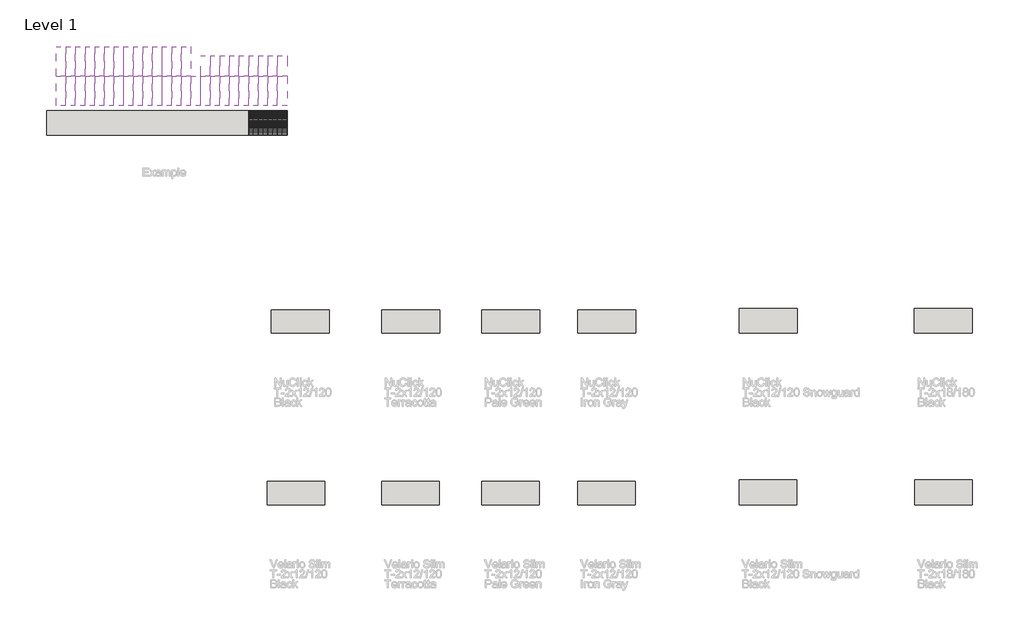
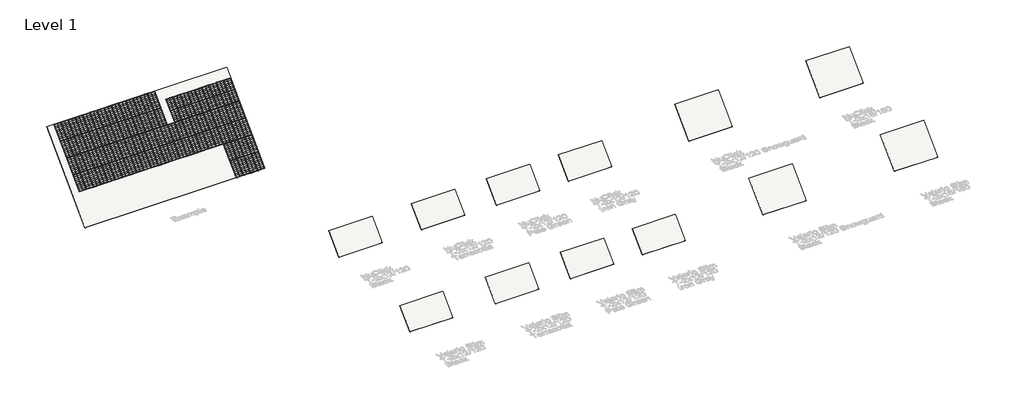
# One storey, part 1 of 13: 51 proxies, 13 roofs.
"""IFC4 building model written with IfcOpenShell, lengths in millimetres."""

from ifc_helpers import new_model, si_unit, frame, origin, place, context, project, spatial, polyline, outline, extrude, transform, mapped, element, save
from components import specialty_equipment_90d8c1e8, specialty_equipment_4e519f52

model = new_model("IFC4")

# Units and contexts
model_context = context("Model", 3, world=origin())
ifc_project = project(units=[si_unit("LENGTHUNIT", "METRE", prefix="MILLI")], contexts=[model_context])

# Site, building, storey
site = spatial("IfcSite", under=ifc_project)
building = spatial("IfcBuilding", under=site)
storey = spatial("IfcBuildingStorey", under=building, Name="Level 1", Elevation=4000.0)

# Proxies
placement = place(None, origin())
specialty_equipment_shape = specialty_equipment_90d8c1e8(model_context)
element("IfcBuildingElementProxy", 1, Name="Construction-Roof_Roofit-Solar_velario-slim-t-2x18-180 : Velario Slim T-2x18/180", ObjectType="Construction-Roof_Roofit-Solar_velario-slim-t-2x18-180 : Velario Slim T-2x18/180", at=placement, inside=storey, context=model_context, shape_type="MappedRepresentation", body=[
    mapped(specialty_equipment_shape, transform((22711.258978, 5411.2263464, 6175.4140123), x_axis=(-1.0, 0.0, 0.0), y_axis=(0.0, -0.7071067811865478, -0.7071067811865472), z_axis=(0.0, -0.7071067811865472, 0.7071067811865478))),
])
element("IfcBuildingElementProxy", 2, Name="Construction-Roof_Roofit-Solar_velario-slim-t-2x18-180 : Velario Slim T-2x18/180", ObjectType="Construction-Roof_Roofit-Solar_velario-slim-t-2x18-180 : Velario Slim T-2x18/180", at=placement, inside=storey, context=model_context, shape_type="MappedRepresentation", body=[
    mapped(specialty_equipment_shape, transform((23182.258978, 5411.2263464, 6175.4140123), x_axis=(-1.0, 0.0, 0.0), y_axis=(0.0, -0.7071067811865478, -0.7071067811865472), z_axis=(0.0, -0.7071067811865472, 0.7071067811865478))),
])
element("IfcBuildingElementProxy", 3, Name="Construction-Roof_Roofit-Solar_velario-slim-t-2x18-180 : Velario Slim T-2x18/180", ObjectType="Construction-Roof_Roofit-Solar_velario-slim-t-2x18-180 : Velario Slim T-2x18/180", at=placement, inside=storey, context=model_context, shape_type="MappedRepresentation", body=[
    mapped(specialty_equipment_shape, transform((23653.258978, 5411.2263464, 6175.4140123), x_axis=(-1.0, 0.0, 0.0), y_axis=(0.0, -0.7071067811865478, -0.7071067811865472), z_axis=(0.0, -0.7071067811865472, 0.7071067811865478))),
])
element("IfcBuildingElementProxy", 4, Name="Construction-Roof_Roofit-Solar_velario-slim-t-2x18-180 : Velario Slim T-2x18/180", ObjectType="Construction-Roof_Roofit-Solar_velario-slim-t-2x18-180 : Velario Slim T-2x18/180", at=placement, inside=storey, context=model_context, shape_type="MappedRepresentation", body=[
    mapped(specialty_equipment_shape, transform((24124.258978, 5411.2263464, 6175.4140123), x_axis=(-1.0, 0.0, 0.0), y_axis=(0.0, -0.7071067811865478, -0.7071067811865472), z_axis=(0.0, -0.7071067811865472, 0.7071067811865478))),
])
element("IfcBuildingElementProxy", 5, Name="Construction-Roof_Roofit-Solar_velario-slim-t-2x18-180 : Velario Slim T-2x18/180", ObjectType="Construction-Roof_Roofit-Solar_velario-slim-t-2x18-180 : Velario Slim T-2x18/180", at=placement, inside=storey, context=model_context, shape_type="MappedRepresentation", body=[
    mapped(specialty_equipment_shape, transform((24595.258978, 5411.2263464, 6175.4140123), x_axis=(-1.0, 0.0, 0.0), y_axis=(0.0, -0.7071067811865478, -0.7071067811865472), z_axis=(0.0, -0.7071067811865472, 0.7071067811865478))),
])
element("IfcBuildingElementProxy", 6, Name="Construction-Roof_Roofit-Solar_velario-slim-t-2x18-180 : Velario Slim T-2x18/180", ObjectType="Construction-Roof_Roofit-Solar_velario-slim-t-2x18-180 : Velario Slim T-2x18/180", at=placement, inside=storey, context=model_context, shape_type="MappedRepresentation", body=[
    mapped(specialty_equipment_shape, transform((25066.258978, 5411.2263464, 6175.4140123), x_axis=(-1.0, 0.0, 0.0), y_axis=(0.0, -0.7071067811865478, -0.7071067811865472), z_axis=(0.0, -0.7071067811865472, 0.7071067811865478))),
])
element("IfcBuildingElementProxy", 7, Name="Construction-Roof_Roofit-Solar_velario-slim-t-2x18-180 : Velario Slim T-2x18/180", ObjectType="Construction-Roof_Roofit-Solar_velario-slim-t-2x18-180 : Velario Slim T-2x18/180", at=placement, inside=storey, context=model_context, shape_type="MappedRepresentation", body=[
    mapped(specialty_equipment_shape, transform((25537.258978, 5411.2263464, 6175.4140123), x_axis=(-1.0, 0.0, 0.0), y_axis=(0.0, -0.7071067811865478, -0.7071067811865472), z_axis=(0.0, -0.7071067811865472, 0.7071067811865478))),
])
element("IfcBuildingElementProxy", 8, Name="Construction-Roof_Roofit-Solar_velario-slim-t-2x18-180 : Velario Slim T-2x18/180", ObjectType="Construction-Roof_Roofit-Solar_velario-slim-t-2x18-180 : Velario Slim T-2x18/180", at=placement, inside=storey, context=model_context, shape_type="MappedRepresentation", body=[
    mapped(specialty_equipment_shape, transform((26008.258978, 5411.2263464, 6175.4140123), x_axis=(-1.0, 0.0, 0.0), y_axis=(0.0, -0.7071067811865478, -0.7071067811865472), z_axis=(0.0, -0.7071067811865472, 0.7071067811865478))),
])
element("IfcBuildingElementProxy", 9, Name="Construction-Roof_Roofit-Solar_velario-slim-t-2x18-180 : Velario Slim T-2x18/180", ObjectType="Construction-Roof_Roofit-Solar_velario-slim-t-2x18-180 : Velario Slim T-2x18/180", at=placement, inside=storey, context=model_context, shape_type="MappedRepresentation", body=[
    mapped(specialty_equipment_shape, transform((26479.258978, 5411.2263464, 6175.4140123), x_axis=(-1.0, 0.0, 0.0), y_axis=(0.0, -0.7071067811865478, -0.7071067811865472), z_axis=(0.0, -0.7071067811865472, 0.7071067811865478))),
])
element("IfcBuildingElementProxy", 10, Name="Construction-Roof_Roofit-Solar_velario-slim-t-2x18-180 : Velario Slim T-2x18/180", ObjectType="Construction-Roof_Roofit-Solar_velario-slim-t-2x18-180 : Velario Slim T-2x18/180", at=placement, inside=storey, context=model_context, shape_type="MappedRepresentation", body=[
    mapped(specialty_equipment_shape, transform((26950.258978, 5411.2263464, 6175.4140123), x_axis=(-1.0, 0.0, 0.0), y_axis=(0.0, -0.7071067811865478, -0.7071067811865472), z_axis=(0.0, -0.7071067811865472, 0.7071067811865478))),
])
element("IfcBuildingElementProxy", 11, Name="Construction-Roof_Roofit-Solar_velario-slim-t-2x18-180 : Velario Slim T-2x18/180", ObjectType="Construction-Roof_Roofit-Solar_velario-slim-t-2x18-180 : Velario Slim T-2x18/180", at=placement, inside=storey, context=model_context, shape_type="MappedRepresentation", body=[
    mapped(specialty_equipment_shape, transform((27421.258978, 5411.2263464, 6175.4140123), x_axis=(-1.0, 0.0, 0.0), y_axis=(0.0, -0.7071067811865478, -0.7071067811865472), z_axis=(0.0, -0.7071067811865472, 0.7071067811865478))),
])
element("IfcBuildingElementProxy", 12, Name="Construction-Roof_Roofit-Solar_velario-slim-t-2x18-180 : Velario Slim T-2x18/180", ObjectType="Construction-Roof_Roofit-Solar_velario-slim-t-2x18-180 : Velario Slim T-2x18/180", at=placement, inside=storey, context=model_context, shape_type="MappedRepresentation", body=[
    mapped(specialty_equipment_shape, transform((27892.258978, 5411.2263464, 6175.4140123), x_axis=(-1.0, 0.0, 0.0), y_axis=(0.0, -0.7071067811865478, -0.7071067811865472), z_axis=(0.0, -0.7071067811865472, 0.7071067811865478))),
])
element("IfcBuildingElementProxy", 13, Name="Construction-Roof_Roofit-Solar_velario-slim-t-2x18-180 : Velario Slim T-2x18/180", ObjectType="Construction-Roof_Roofit-Solar_velario-slim-t-2x18-180 : Velario Slim T-2x18/180", at=placement, inside=storey, context=model_context, shape_type="MappedRepresentation", body=[
    mapped(specialty_equipment_shape, transform((28363.258978, 5411.2263464, 6175.4140123), x_axis=(-1.0, 0.0, 0.0), y_axis=(0.0, -0.7071067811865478, -0.7071067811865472), z_axis=(0.0, -0.7071067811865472, 0.7071067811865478))),
])
element("IfcBuildingElementProxy", 14, Name="Construction-Roof_Roofit-Solar_velario-slim-t-2x18-180 : Velario Slim T-2x18/180", ObjectType="Construction-Roof_Roofit-Solar_velario-slim-t-2x18-180 : Velario Slim T-2x18/180", at=placement, inside=storey, context=model_context, shape_type="MappedRepresentation", body=[
    mapped(specialty_equipment_shape, transform((28834.258978, 5411.2263464, 6175.4140123), x_axis=(-1.0, 0.0, 0.0), y_axis=(0.0, -0.7071067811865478, -0.7071067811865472), z_axis=(0.0, -0.7071067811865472, 0.7071067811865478))),
])
element("IfcBuildingElementProxy", 15, Name="Construction-Roof_Roofit-Solar_velario-slim-t-2x18-180 : Velario Slim T-2x18/180", ObjectType="Construction-Roof_Roofit-Solar_velario-slim-t-2x18-180 : Velario Slim T-2x18/180", at=placement, inside=storey, context=model_context, shape_type="MappedRepresentation", body=[
    mapped(specialty_equipment_shape, transform((22711.258978, 6861.5023546, 7625.6900205), x_axis=(-1.0, 0.0, 0.0), y_axis=(0.0, -0.7071067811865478, -0.7071067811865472), z_axis=(0.0, -0.7071067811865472, 0.7071067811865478))),
])
element("IfcBuildingElementProxy", 16, Name="Construction-Roof_Roofit-Solar_velario-slim-t-2x18-180 : Velario Slim T-2x18/180", ObjectType="Construction-Roof_Roofit-Solar_velario-slim-t-2x18-180 : Velario Slim T-2x18/180", at=placement, inside=storey, context=model_context, shape_type="MappedRepresentation", body=[
    mapped(specialty_equipment_shape, transform((23182.258978, 6861.5023546, 7625.6900205), x_axis=(-1.0, 0.0, 0.0), y_axis=(0.0, -0.7071067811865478, -0.7071067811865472), z_axis=(0.0, -0.7071067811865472, 0.7071067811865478))),
])
element("IfcBuildingElementProxy", 17, Name="Construction-Roof_Roofit-Solar_velario-slim-t-2x18-180 : Velario Slim T-2x18/180", ObjectType="Construction-Roof_Roofit-Solar_velario-slim-t-2x18-180 : Velario Slim T-2x18/180", at=placement, inside=storey, context=model_context, shape_type="MappedRepresentation", body=[
    mapped(specialty_equipment_shape, transform((23653.258978, 6861.5023546, 7625.6900205), x_axis=(-1.0, 0.0, 0.0), y_axis=(0.0, -0.7071067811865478, -0.7071067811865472), z_axis=(0.0, -0.7071067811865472, 0.7071067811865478))),
])
element("IfcBuildingElementProxy", 18, Name="Construction-Roof_Roofit-Solar_velario-slim-t-2x18-180 : Velario Slim T-2x18/180", ObjectType="Construction-Roof_Roofit-Solar_velario-slim-t-2x18-180 : Velario Slim T-2x18/180", at=placement, inside=storey, context=model_context, shape_type="MappedRepresentation", body=[
    mapped(specialty_equipment_shape, transform((24124.258978, 6861.5023546, 7625.6900205), x_axis=(-1.0, 0.0, 0.0), y_axis=(0.0, -0.7071067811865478, -0.7071067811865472), z_axis=(0.0, -0.7071067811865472, 0.7071067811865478))),
])
element("IfcBuildingElementProxy", 19, Name="Construction-Roof_Roofit-Solar_velario-slim-t-2x18-180 : Velario Slim T-2x18/180", ObjectType="Construction-Roof_Roofit-Solar_velario-slim-t-2x18-180 : Velario Slim T-2x18/180", at=placement, inside=storey, context=model_context, shape_type="MappedRepresentation", body=[
    mapped(specialty_equipment_shape, transform((24595.258978, 6861.5023546, 7625.6900205), x_axis=(-1.0, 0.0, 0.0), y_axis=(0.0, -0.7071067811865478, -0.7071067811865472), z_axis=(0.0, -0.7071067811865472, 0.7071067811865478))),
])
element("IfcBuildingElementProxy", 20, Name="Construction-Roof_Roofit-Solar_velario-slim-t-2x18-180 : Velario Slim T-2x18/180", ObjectType="Construction-Roof_Roofit-Solar_velario-slim-t-2x18-180 : Velario Slim T-2x18/180", at=placement, inside=storey, context=model_context, shape_type="MappedRepresentation", body=[
    mapped(specialty_equipment_shape, transform((25066.258978, 6861.5023546, 7625.6900205), x_axis=(-1.0, 0.0, 0.0), y_axis=(0.0, -0.7071067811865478, -0.7071067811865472), z_axis=(0.0, -0.7071067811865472, 0.7071067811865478))),
])
element("IfcBuildingElementProxy", 21, Name="Construction-Roof_Roofit-Solar_velario-slim-t-2x18-180 : Velario Slim T-2x18/180", ObjectType="Construction-Roof_Roofit-Solar_velario-slim-t-2x18-180 : Velario Slim T-2x18/180", at=placement, inside=storey, context=model_context, shape_type="MappedRepresentation", body=[
    mapped(specialty_equipment_shape, transform((25537.258978, 6861.5023546, 7625.6900205), x_axis=(-1.0, 0.0, 0.0), y_axis=(0.0, -0.7071067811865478, -0.7071067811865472), z_axis=(0.0, -0.7071067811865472, 0.7071067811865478))),
])
element("IfcBuildingElementProxy", 22, Name="Construction-Roof_Roofit-Solar_velario-slim-t-2x18-180 : Velario Slim T-2x18/180", ObjectType="Construction-Roof_Roofit-Solar_velario-slim-t-2x18-180 : Velario Slim T-2x18/180", at=placement, inside=storey, context=model_context, shape_type="MappedRepresentation", body=[
    mapped(specialty_equipment_shape, transform((26008.258978, 6861.5023546, 7625.6900205), x_axis=(-1.0, 0.0, 0.0), y_axis=(0.0, -0.7071067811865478, -0.7071067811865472), z_axis=(0.0, -0.7071067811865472, 0.7071067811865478))),
])
element("IfcBuildingElementProxy", 23, Name="Construction-Roof_Roofit-Solar_velario-slim-t-2x18-180 : Velario Slim T-2x18/180", ObjectType="Construction-Roof_Roofit-Solar_velario-slim-t-2x18-180 : Velario Slim T-2x18/180", at=placement, inside=storey, context=model_context, shape_type="MappedRepresentation", body=[
    mapped(specialty_equipment_shape, transform((26479.258978, 6861.5023546, 7625.6900205), x_axis=(-1.0, 0.0, 0.0), y_axis=(0.0, -0.7071067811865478, -0.7071067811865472), z_axis=(0.0, -0.7071067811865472, 0.7071067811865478))),
])
element("IfcBuildingElementProxy", 24, Name="Construction-Roof_Roofit-Solar_velario-slim-t-2x18-180 : Velario Slim T-2x18/180", ObjectType="Construction-Roof_Roofit-Solar_velario-slim-t-2x18-180 : Velario Slim T-2x18/180", at=placement, inside=storey, context=model_context, shape_type="MappedRepresentation", body=[
    mapped(specialty_equipment_shape, transform((26950.258978, 6861.5023546, 7625.6900205), x_axis=(-1.0, 0.0, 0.0), y_axis=(0.0, -0.7071067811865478, -0.7071067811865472), z_axis=(0.0, -0.7071067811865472, 0.7071067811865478))),
])
element("IfcBuildingElementProxy", 25, Name="Construction-Roof_Roofit-Solar_velario-slim-t-2x18-180 : Velario Slim T-2x18/180", ObjectType="Construction-Roof_Roofit-Solar_velario-slim-t-2x18-180 : Velario Slim T-2x18/180", at=placement, inside=storey, context=model_context, shape_type="MappedRepresentation", body=[
    mapped(specialty_equipment_shape, transform((27421.258978, 6861.5023546, 7625.6900205), x_axis=(-1.0, 0.0, 0.0), y_axis=(0.0, -0.7071067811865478, -0.7071067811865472), z_axis=(0.0, -0.7071067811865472, 0.7071067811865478))),
])
element("IfcBuildingElementProxy", 26, Name="Construction-Roof_Roofit-Solar_velario-slim-t-2x18-180 : Velario Slim T-2x18/180", ObjectType="Construction-Roof_Roofit-Solar_velario-slim-t-2x18-180 : Velario Slim T-2x18/180", at=placement, inside=storey, context=model_context, shape_type="MappedRepresentation", body=[
    mapped(specialty_equipment_shape, transform((27892.258978, 6861.5023546, 7625.6900205), x_axis=(-1.0, 0.0, 0.0), y_axis=(0.0, -0.7071067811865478, -0.7071067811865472), z_axis=(0.0, -0.7071067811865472, 0.7071067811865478))),
])
element("IfcBuildingElementProxy", 27, Name="Construction-Roof_Roofit-Solar_velario-slim-t-2x18-180 : Velario Slim T-2x18/180", ObjectType="Construction-Roof_Roofit-Solar_velario-slim-t-2x18-180 : Velario Slim T-2x18/180", at=placement, inside=storey, context=model_context, shape_type="MappedRepresentation", body=[
    mapped(specialty_equipment_shape, transform((28363.258978, 6861.5023546, 7625.6900205), x_axis=(-1.0, 0.0, 0.0), y_axis=(0.0, -0.7071067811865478, -0.7071067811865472), z_axis=(0.0, -0.7071067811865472, 0.7071067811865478))),
])
element("IfcBuildingElementProxy", 28, Name="Construction-Roof_Roofit-Solar_velario-slim-t-2x18-180 : Velario Slim T-2x18/180", ObjectType="Construction-Roof_Roofit-Solar_velario-slim-t-2x18-180 : Velario Slim T-2x18/180", at=placement, inside=storey, context=model_context, shape_type="MappedRepresentation", body=[
    mapped(specialty_equipment_shape, transform((28834.258978, 6861.5023546, 7625.6900205), x_axis=(-1.0, 0.0, 0.0), y_axis=(0.0, -0.7071067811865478, -0.7071067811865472), z_axis=(0.0, -0.7071067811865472, 0.7071067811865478))),
])
element("IfcBuildingElementProxy", 29, Name="Construction-Roof_Roofit-Solar_velario-slim-t-2x18-180 : Velario Slim T-2x18/180", ObjectType="Construction-Roof_Roofit-Solar_velario-slim-t-2x18-180 : Velario Slim T-2x18/180", at=placement, inside=storey, context=model_context, shape_type="MappedRepresentation", body=[
    mapped(specialty_equipment_shape, transform((29305.258978, 5411.2263464, 6175.4140123), x_axis=(-1.0, 0.0, 0.0), y_axis=(0.0, -0.7071067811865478, -0.7071067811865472), z_axis=(0.0, -0.7071067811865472, 0.7071067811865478))),
])
element("IfcBuildingElementProxy", 30, Name="Construction-Roof_Roofit-Solar_velario-slim-t-2x18-180 : Velario Slim T-2x18/180", ObjectType="Construction-Roof_Roofit-Solar_velario-slim-t-2x18-180 : Velario Slim T-2x18/180", at=placement, inside=storey, context=model_context, shape_type="MappedRepresentation", body=[
    mapped(specialty_equipment_shape, transform((29776.258978, 5411.2263464, 6175.4140123), x_axis=(-1.0, 0.0, 0.0), y_axis=(0.0, -0.7071067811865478, -0.7071067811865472), z_axis=(0.0, -0.7071067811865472, 0.7071067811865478))),
])
element("IfcBuildingElementProxy", 31, Name="Construction-Roof_Roofit-Solar_velario-slim-t-2x18-180 : Velario Slim T-2x18/180", ObjectType="Construction-Roof_Roofit-Solar_velario-slim-t-2x18-180 : Velario Slim T-2x18/180", at=placement, inside=storey, context=model_context, shape_type="MappedRepresentation", body=[
    mapped(specialty_equipment_shape, transform((30247.258978, 5411.2263464, 6175.4140123), x_axis=(-1.0, 0.0, 0.0), y_axis=(0.0, -0.7071067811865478, -0.7071067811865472), z_axis=(0.0, -0.7071067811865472, 0.7071067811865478))),
])
element("IfcBuildingElementProxy", 32, Name="Construction-Roof_Roofit-Solar_velario-slim-t-2x18-180 : Velario Slim T-2x18/180", ObjectType="Construction-Roof_Roofit-Solar_velario-slim-t-2x18-180 : Velario Slim T-2x18/180", at=placement, inside=storey, context=model_context, shape_type="MappedRepresentation", body=[
    mapped(specialty_equipment_shape, transform((30718.258978, 5411.2263464, 6175.4140123), x_axis=(-1.0, 0.0, 0.0), y_axis=(0.0, -0.7071067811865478, -0.7071067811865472), z_axis=(0.0, -0.7071067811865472, 0.7071067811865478))),
])
element("IfcBuildingElementProxy", 33, Name="Construction-Roof_Roofit-Solar_velario-slim-t-2x18-180 : Velario Slim T-2x18/180", ObjectType="Construction-Roof_Roofit-Solar_velario-slim-t-2x18-180 : Velario Slim T-2x18/180", at=placement, inside=storey, context=model_context, shape_type="MappedRepresentation", body=[
    mapped(specialty_equipment_shape, transform((31189.258978, 5411.2263464, 6175.4140123), x_axis=(-1.0, 0.0, 0.0), y_axis=(0.0, -0.7071067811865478, -0.7071067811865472), z_axis=(0.0, -0.7071067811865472, 0.7071067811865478))),
])
element("IfcBuildingElementProxy", 34, Name="Construction-Roof_Roofit-Solar_velario-slim-t-2x18-180 : Velario Slim T-2x18/180", ObjectType="Construction-Roof_Roofit-Solar_velario-slim-t-2x18-180 : Velario Slim T-2x18/180", at=placement, inside=storey, context=model_context, shape_type="MappedRepresentation", body=[
    mapped(specialty_equipment_shape, transform((31660.258978, 5411.2263464, 6175.4140123), x_axis=(-1.0, 0.0, 0.0), y_axis=(0.0, -0.7071067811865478, -0.7071067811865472), z_axis=(0.0, -0.7071067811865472, 0.7071067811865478))),
])
element("IfcBuildingElementProxy", 35, Name="Construction-Roof_Roofit-Solar_velario-slim-t-2x18-180 : Velario Slim T-2x18/180", ObjectType="Construction-Roof_Roofit-Solar_velario-slim-t-2x18-180 : Velario Slim T-2x18/180", at=placement, inside=storey, context=model_context, shape_type="MappedRepresentation", body=[
    mapped(specialty_equipment_shape, transform((32131.258978, 5411.2263464, 6175.4140123), x_axis=(-1.0, 0.0, 0.0), y_axis=(0.0, -0.7071067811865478, -0.7071067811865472), z_axis=(0.0, -0.7071067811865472, 0.7071067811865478))),
])
element("IfcBuildingElementProxy", 36, Name="Construction-Roof_Roofit-Solar_velario-slim-t-2x18-180 : Velario Slim T-2x18/180", ObjectType="Construction-Roof_Roofit-Solar_velario-slim-t-2x18-180 : Velario Slim T-2x18/180", at=placement, inside=storey, context=model_context, shape_type="MappedRepresentation", body=[
    mapped(specialty_equipment_shape, transform((32602.258978, 5411.2263464, 6175.4140123), x_axis=(-1.0, 0.0, 0.0), y_axis=(0.0, -0.7071067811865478, -0.7071067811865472), z_axis=(0.0, -0.7071067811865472, 0.7071067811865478))),
])
element("IfcBuildingElementProxy", 37, Name="Construction-Roof_Roofit-Solar_velario-slim-t-2x18-180 : Velario Slim T-2x18/180", ObjectType="Construction-Roof_Roofit-Solar_velario-slim-t-2x18-180 : Velario Slim T-2x18/180", at=placement, inside=storey, context=model_context, shape_type="MappedRepresentation", body=[
    mapped(specialty_equipment_shape, transform((33073.258978, 5411.2263464, 6175.4140123), x_axis=(-1.0, 0.0, 0.0), y_axis=(0.0, -0.7071067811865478, -0.7071067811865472), z_axis=(0.0, -0.7071067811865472, 0.7071067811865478))),
])
element("IfcBuildingElementProxy", 38, Name="Construction-Roof_Roofit-Solar_velario-slim-t-2x18-180 : Velario Slim T-2x18/180", ObjectType="Construction-Roof_Roofit-Solar_velario-slim-t-2x18-180 : Velario Slim T-2x18/180", at=placement, inside=storey, context=model_context, shape_type="MappedRepresentation", body=[
    mapped(specialty_equipment_shape, transform((33544.258978, 5411.2263464, 6175.4140123), x_axis=(-1.0, 0.0, 0.0), y_axis=(0.0, -0.7071067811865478, -0.7071067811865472), z_axis=(0.0, -0.7071067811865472, 0.7071067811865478))),
])
element("IfcBuildingElementProxy", 39, Name="Construction-Roof_Roofit-Solar_velario-slim-t-2x18-180 : Velario Slim T-2x18/180", ObjectType="Construction-Roof_Roofit-Solar_velario-slim-t-2x18-180 : Velario Slim T-2x18/180", at=placement, inside=storey, context=model_context, shape_type="MappedRepresentation", body=[
    mapped(specialty_equipment_shape, transform((32131.258978, 3960.9503382, 4725.1380041), x_axis=(-1.0, 0.0, 0.0), y_axis=(0.0, -0.7071067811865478, -0.7071067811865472), z_axis=(0.0, -0.7071067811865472, 0.7071067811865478))),
])
element("IfcBuildingElementProxy", 40, Name="Construction-Roof_Roofit-Solar_velario-slim-t-2x18-180 : Velario Slim T-2x18/180", ObjectType="Construction-Roof_Roofit-Solar_velario-slim-t-2x18-180 : Velario Slim T-2x18/180", at=placement, inside=storey, context=model_context, shape_type="MappedRepresentation", body=[
    mapped(specialty_equipment_shape, transform((32602.258978, 3960.9503382, 4725.1380041), x_axis=(-1.0, 0.0, 0.0), y_axis=(0.0, -0.7071067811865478, -0.7071067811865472), z_axis=(0.0, -0.7071067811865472, 0.7071067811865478))),
])
element("IfcBuildingElementProxy", 41, Name="Construction-Roof_Roofit-Solar_velario-slim-t-2x18-180 : Velario Slim T-2x18/180", ObjectType="Construction-Roof_Roofit-Solar_velario-slim-t-2x18-180 : Velario Slim T-2x18/180", at=placement, inside=storey, context=model_context, shape_type="MappedRepresentation", body=[
    mapped(specialty_equipment_shape, transform((33073.258978, 3960.9503382, 4725.1380041), x_axis=(-1.0, 0.0, 0.0), y_axis=(0.0, -0.7071067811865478, -0.7071067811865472), z_axis=(0.0, -0.7071067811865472, 0.7071067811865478))),
])
element("IfcBuildingElementProxy", 42, Name="Construction-Roof_Roofit-Solar_velario-slim-t-2x18-180 : Velario Slim T-2x18/180", ObjectType="Construction-Roof_Roofit-Solar_velario-slim-t-2x18-180 : Velario Slim T-2x18/180", at=placement, inside=storey, context=model_context, shape_type="MappedRepresentation", body=[
    mapped(specialty_equipment_shape, transform((33544.258978, 3960.9503382, 4725.1380041), x_axis=(-1.0, 0.0, 0.0), y_axis=(0.0, -0.7071067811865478, -0.7071067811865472), z_axis=(0.0, -0.7071067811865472, 0.7071067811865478))),
])
specialty_equipment_2_shape = specialty_equipment_4e519f52(model_context)
element("IfcBuildingElementProxy", 43, Name="Construction-Roof_Roofit-Solar_velario-slim-t-2x18-120 : Velario Slim T-2x12/120", ObjectType="Construction-Roof_Roofit-Solar_velario-slim-t-2x18-120 : Velario Slim T-2x12/120", at=placement, inside=storey, context=model_context, shape_type="MappedRepresentation", body=[
    mapped(specialty_equipment_2_shape, transform((29776.258978, 6634.5210778, 7398.7087438), x_axis=(-1.0, 0.0, 0.0), y_axis=(0.0, -0.7071067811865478, -0.7071067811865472), z_axis=(0.0, -0.7071067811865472, 0.7071067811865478))),
])
element("IfcBuildingElementProxy", 44, Name="Construction-Roof_Roofit-Solar_velario-slim-t-2x18-120 : Velario Slim T-2x12/120", ObjectType="Construction-Roof_Roofit-Solar_velario-slim-t-2x18-120 : Velario Slim T-2x12/120", at=placement, inside=storey, context=model_context, shape_type="MappedRepresentation", body=[
    mapped(specialty_equipment_2_shape, transform((30247.258978, 6634.5210778, 7398.7087438), x_axis=(-1.0, 0.0, 0.0), y_axis=(0.0, -0.7071067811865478, -0.7071067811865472), z_axis=(0.0, -0.7071067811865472, 0.7071067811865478))),
])
element("IfcBuildingElementProxy", 45, Name="Construction-Roof_Roofit-Solar_velario-slim-t-2x18-120 : Velario Slim T-2x12/120", ObjectType="Construction-Roof_Roofit-Solar_velario-slim-t-2x18-120 : Velario Slim T-2x12/120", at=placement, inside=storey, context=model_context, shape_type="MappedRepresentation", body=[
    mapped(specialty_equipment_2_shape, transform((30718.258978, 6634.5210778, 7398.7087438), x_axis=(-1.0, 0.0, 0.0), y_axis=(0.0, -0.7071067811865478, -0.7071067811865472), z_axis=(0.0, -0.7071067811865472, 0.7071067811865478))),
])
element("IfcBuildingElementProxy", 46, Name="Construction-Roof_Roofit-Solar_velario-slim-t-2x18-120 : Velario Slim T-2x12/120", ObjectType="Construction-Roof_Roofit-Solar_velario-slim-t-2x18-120 : Velario Slim T-2x12/120", at=placement, inside=storey, context=model_context, shape_type="MappedRepresentation", body=[
    mapped(specialty_equipment_2_shape, transform((31189.258978, 6634.5210778, 7398.7087438), x_axis=(-1.0, 0.0, 0.0), y_axis=(0.0, -0.7071067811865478, -0.7071067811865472), z_axis=(0.0, -0.7071067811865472, 0.7071067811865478))),
])
element("IfcBuildingElementProxy", 47, Name="Construction-Roof_Roofit-Solar_velario-slim-t-2x18-120 : Velario Slim T-2x12/120", ObjectType="Construction-Roof_Roofit-Solar_velario-slim-t-2x18-120 : Velario Slim T-2x12/120", at=placement, inside=storey, context=model_context, shape_type="MappedRepresentation", body=[
    mapped(specialty_equipment_2_shape, transform((31660.258978, 6634.5210778, 7398.7087438), x_axis=(-1.0, 0.0, 0.0), y_axis=(0.0, -0.7071067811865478, -0.7071067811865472), z_axis=(0.0, -0.7071067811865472, 0.7071067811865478))),
])
element("IfcBuildingElementProxy", 48, Name="Construction-Roof_Roofit-Solar_velario-slim-t-2x18-120 : Velario Slim T-2x12/120", ObjectType="Construction-Roof_Roofit-Solar_velario-slim-t-2x18-120 : Velario Slim T-2x12/120", at=placement, inside=storey, context=model_context, shape_type="MappedRepresentation", body=[
    mapped(specialty_equipment_2_shape, transform((32131.258978, 6634.5210778, 7398.7087438), x_axis=(-1.0, 0.0, 0.0), y_axis=(0.0, -0.7071067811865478, -0.7071067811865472), z_axis=(0.0, -0.7071067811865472, 0.7071067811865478))),
])
element("IfcBuildingElementProxy", 49, Name="Construction-Roof_Roofit-Solar_velario-slim-t-2x18-120 : Velario Slim T-2x12/120", ObjectType="Construction-Roof_Roofit-Solar_velario-slim-t-2x18-120 : Velario Slim T-2x12/120", at=placement, inside=storey, context=model_context, shape_type="MappedRepresentation", body=[
    mapped(specialty_equipment_2_shape, transform((32602.258978, 6634.5210778, 7398.7087438), x_axis=(-1.0, 0.0, 0.0), y_axis=(0.0, -0.7071067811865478, -0.7071067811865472), z_axis=(0.0, -0.7071067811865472, 0.7071067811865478))),
])
element("IfcBuildingElementProxy", 50, Name="Construction-Roof_Roofit-Solar_velario-slim-t-2x18-120 : Velario Slim T-2x12/120", ObjectType="Construction-Roof_Roofit-Solar_velario-slim-t-2x18-120 : Velario Slim T-2x12/120", at=placement, inside=storey, context=model_context, shape_type="MappedRepresentation", body=[
    mapped(specialty_equipment_2_shape, transform((33073.258978, 6634.5210778, 7398.7087438), x_axis=(-1.0, 0.0, 0.0), y_axis=(0.0, -0.7071067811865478, -0.7071067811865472), z_axis=(0.0, -0.7071067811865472, 0.7071067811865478))),
])
element("IfcBuildingElementProxy", 51, Name="Construction-Roof_Roofit-Solar_velario-slim-t-2x18-120 : Velario Slim T-2x12/120", ObjectType="Construction-Roof_Roofit-Solar_velario-slim-t-2x18-120 : Velario Slim T-2x12/120", at=placement, inside=storey, context=model_context, shape_type="MappedRepresentation", body=[
    mapped(specialty_equipment_2_shape, transform((33544.258978, 6634.5210778, 7398.7087438), x_axis=(-1.0, 0.0, 0.0), y_axis=(0.0, -0.7071067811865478, -0.7071067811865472), z_axis=(0.0, -0.7071067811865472, 0.7071067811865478))),
])

# Roofs
element("IfcRoof", 52, ObjectType="Roofit Solar - Steel roof - Velario Slim - Black", at=placement, inside=storey, context=model_context, shape_type="SweptSolid", body=[
    extrude(outline(polyline([(-13270.2649519, 5586.747617), (-13270.2649519, 5585.6162461), (-14857.0125689, 3998.8686292), (-14857.0125689, 4000.0), (-13270.2649519, 5586.747617)])), frame((64504.758978, 0.0, 0.0), z_axis=(1.0, 0.0, 0.0), x_axis=(0.0, 1.0, 0.0)), (0.0, 0.0, 1.0), 2826.0),
])
element("IfcRoof", 53, ObjectType="Roofit Solar - Steel roof - Velario Slim - Terracotta", at=placement, inside=storey, context=model_context, shape_type="SweptSolid", body=[
    extrude(outline(polyline([(-13724.2275054, 5132.7850635), (-13724.2275054, 5131.6536926), (-14857.0125689, 3998.8686292), (-14857.0125689, 4000.0), (-13724.2275054, 5132.7850635)])), frame((38404.758978, 0.0, 0.0), z_axis=(1.0, 0.0, 0.0), x_axis=(0.0, 1.0, 0.0)), (0.0, 0.0, 1.0), 2826.0),
])
element("IfcRoof", 54, ObjectType="Roofit Solar - Steel roof - Velario Slim - Pale Green", at=placement, inside=storey, context=model_context, shape_type="SweptSolid", body=[
    extrude(outline(polyline([(-13724.2275054, 5132.7850635), (-13724.2275054, 5131.6536926), (-14857.0125689, 3998.8686292), (-14857.0125689, 4000.0), (-13724.2275054, 5132.7850635)])), frame((43304.758978, 0.0, 0.0), z_axis=(1.0, 0.0, 0.0), x_axis=(0.0, 1.0, 0.0)), (0.0, 0.0, 1.0), 2826.0),
])
element("IfcRoof", 55, ObjectType="Roofit Solar - Steel roof - Velario Slim - Iron Gray", at=placement, inside=storey, context=model_context, shape_type="SweptSolid", body=[
    extrude(outline(polyline([(-13724.2275054, 5132.7850635), (-13724.2275054, 5131.6536926), (-14857.0125689, 3998.8686292), (-14857.0125689, 4000.0), (-13724.2275054, 5132.7850635)])), frame((48004.758978, 0.0, 0.0), z_axis=(1.0, 0.0, 0.0), x_axis=(0.0, 1.0, 0.0)), (0.0, 0.0, 1.0), 2826.0),
])
element("IfcRoof", 56, ObjectType="Roofit Solar - Steel roof - Velario Slim - Black", at=placement, inside=storey, context=model_context, shape_type="SweptSolid", body=[
    extrude(outline(polyline([(-13270.2649519, 5586.747617), (-13270.2649519, 5585.6162461), (-14857.0125689, 3998.8686292), (-14857.0125689, 4000.0), (-13270.2649519, 5586.747617)])), frame((55904.758978, 0.0, 0.0), z_axis=(1.0, 0.0, 0.0), x_axis=(0.0, 1.0, 0.0)), (0.0, 0.0, 1.0), 2826.0),
])
element("IfcRoof", 57, ObjectType="Roofit Solar - Steel roof - NuClick - Black", at=placement, inside=storey, context=model_context, shape_type="SweptSolid", body=[
    extrude(outline(polyline([(-4870.2649519, 5586.747617), (-4870.2649519, 5585.6162461), (-6457.0125689, 3998.8686292), (-6457.0125689, 4000.0), (-4870.2649519, 5586.747617)])), frame((64480.758978, 0.0, 0.0), z_axis=(1.0, 0.0, 0.0), x_axis=(0.0, 1.0, 0.0)), (0.0, 0.0, 1.0), 2850.0),
])
element("IfcRoof", 58, ObjectType="Roofit Solar - Steel roof - NuClick - Terracotta", at=placement, inside=storey, context=model_context, shape_type="SweptSolid", body=[
    extrude(outline(polyline([(-5324.2275054, 5132.7850635), (-5324.2275054, 5131.6536926), (-6457.0125689, 3998.8686292), (-6457.0125689, 4000.0), (-5324.2275054, 5132.7850635)])), frame((38404.758978, 0.0, 0.0), z_axis=(1.0, 0.0, 0.0), x_axis=(0.0, 1.0, 0.0)), (0.0, 0.0, 1.0), 2850.0),
])
element("IfcRoof", 59, ObjectType="Roofit Solar - Steel roof - NuClick - Pale Green", at=placement, inside=storey, context=model_context, shape_type="SweptSolid", body=[
    extrude(outline(polyline([(-5324.2275054, 5132.7850635), (-5324.2275054, 5131.6536926), (-6457.0125689, 3998.8686292), (-6457.0125689, 4000.0), (-5324.2275054, 5132.7850635)])), frame((43304.758978, 0.0, 0.0), z_axis=(1.0, 0.0, 0.0), x_axis=(0.0, 1.0, 0.0)), (0.0, 0.0, 1.0), 2850.0),
])
element("IfcRoof", 60, ObjectType="Roofit Solar - Steel roof - NuClick - Iron Gray", at=placement, inside=storey, context=model_context, shape_type="SweptSolid", body=[
    extrude(outline(polyline([(-5324.2275054, 5132.7850635), (-5324.2275054, 5131.6536926), (-6457.0125689, 3998.8686292), (-6457.0125689, 4000.0), (-5324.2275054, 5132.7850635)])), frame((48004.758978, 0.0, 0.0), z_axis=(1.0, 0.0, 0.0), x_axis=(0.0, 1.0, 0.0)), (0.0, 0.0, 1.0), 2850.0),
])
element("IfcRoof", 61, ObjectType="Roofit Solar - Steel roof - NuClick - Black", at=placement, inside=storey, context=model_context, shape_type="SweptSolid", body=[
    extrude(outline(polyline([(-4870.2649519, 5586.747617), (-4870.2649519, 5585.6162461), (-6457.0125689, 3998.8686292), (-6457.0125689, 4000.0), (-4870.2649519, 5586.747617)])), frame((55904.758978, 0.0, 0.0), z_axis=(1.0, 0.0, 0.0), x_axis=(0.0, 1.0, 0.0)), (0.0, 0.0, 1.0), 2850.0),
])
element("IfcRoof", 62, ObjectType="Roofit Solar - Steel roof - Velario Slim - Black", at=placement, inside=storey, context=model_context, shape_type="SweptSolid", body=[
    extrude(outline(polyline([(7586.6403587, 8350.8280246), (7586.6403587, 8349.6966538), (3235.8123341, 3998.8686292), (3235.8123341, 4000.0), (7586.6403587, 8350.8280246)])), frame((22004.758978, 0.0, 0.0), z_axis=(1.0, 0.0, 0.0), x_axis=(0.0, 1.0, 0.0)), (0.0, 0.0, 1.0), 11775.0),
])
element("IfcRoof", 63, ObjectType="Roofit Solar - Steel roof - NuClick - Black", at=placement, inside=storey, context=model_context, shape_type="SweptSolid", body=[
    extrude(outline(polyline([(-5324.2275054, 5132.7850635), (-5324.2275054, 5131.6536926), (-6457.0125689, 3998.8686292), (-6457.0125689, 4000.0), (-5324.2275054, 5132.7850635)])), frame((33004.758978, 0.0, 0.0), z_axis=(1.0, 0.0, 0.0), x_axis=(0.0, 1.0, 0.0)), (0.0, 0.0, 1.0), 2850.0),
])
element("IfcRoof", 64, ObjectType="Roofit Solar - Steel roof - Velario Slim - Black", at=placement, inside=storey, context=model_context, shape_type="SweptSolid", body=[
    extrude(outline(polyline([(-13724.2275054, 5132.7850635), (-13724.2275054, 5131.6536926), (-14857.0125689, 3998.8686292), (-14857.0125689, 4000.0), (-13724.2275054, 5132.7850635)])), frame((32804.758978, 0.0, 0.0), z_axis=(1.0, 0.0, 0.0), x_axis=(0.0, 1.0, 0.0)), (0.0, 0.0, 1.0), 2826.0),
])

save(model, "model.ifc")
